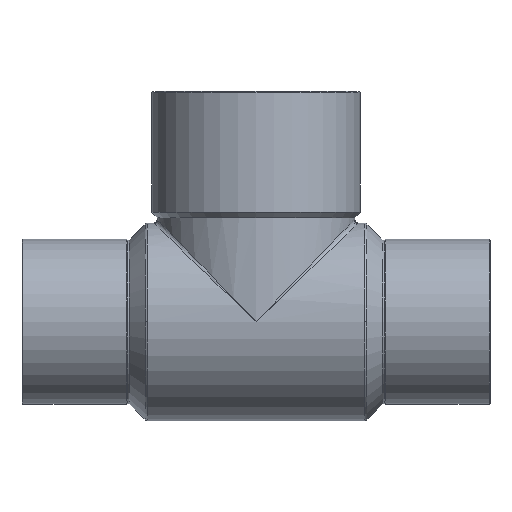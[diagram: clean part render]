
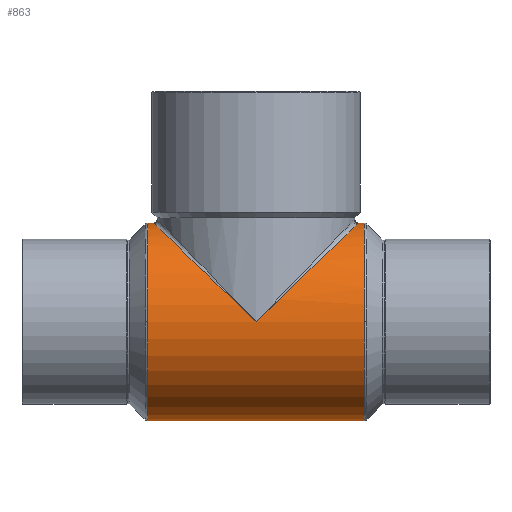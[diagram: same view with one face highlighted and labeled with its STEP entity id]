
A CAD part, top view. The second image highlights one B-rep face of the part: STEP entity #863.
In plain terms, the highlighted cylindrical face has radius 27 mm (diameter 54 mm), a partial arc.
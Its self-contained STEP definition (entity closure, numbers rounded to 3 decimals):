
#500=CARTESIAN_POINT('',(0.0,0.0,27.0));
#501=VERTEX_POINT('',#500);
#721=CARTESIAN_POINT('',(-29.639,0.,27.0));
#722=VERTEX_POINT('',#721);
#730=CARTESIAN_POINT('',(-29.639,27.0,0.));
#731=VERTEX_POINT('',#730);
#732=CARTESIAN_POINT('',(-29.639,0.0,0.0));
#733=DIRECTION('',(-1.0,0.0,0.0));
#734=DIRECTION('',(0.0,-1.0,0.0));
#735=AXIS2_PLACEMENT_3D('',#732,#733,#734);
#736=CIRCLE('',#735,27.0);
#737=EDGE_CURVE('',#722,#731,#736,.T.);
#790=CARTESIAN_POINT('',(0.,0.0,0.0));
#791=DIRECTION('',(1.0,0.0,0.0));
#792=DIRECTION('',(0.0,1.0,0.0));
#793=AXIS2_PLACEMENT_3D('',#790,#791,#792);
#794=CYLINDRICAL_SURFACE('',#793,27.0);
#795=CARTESIAN_POINT('',(-28.,27.,0.));
#796=VERTEX_POINT('',#795);
#797=CARTESIAN_POINT('',(-29.639,27.0,0.));
#798=DIRECTION('',(1.0,0.0,0.0));
#799=VECTOR('',#798,1.639);
#800=LINE('',#797,#799);
#801=EDGE_CURVE('',#731,#796,#800,.T.);
#802=ORIENTED_EDGE('',*,*,#801,.F.);
#803=ORIENTED_EDGE('',*,*,#737,.F.);
#804=CARTESIAN_POINT('',(-29.639,-27.0,0.));
#805=VERTEX_POINT('',#804);
#806=CARTESIAN_POINT('',(-29.639,0.0,0.0));
#807=DIRECTION('',(-1.0,0.0,0.0));
#808=DIRECTION('',(0.0,-1.0,0.0));
#809=AXIS2_PLACEMENT_3D('',#806,#807,#808);
#810=CIRCLE('',#809,27.0);
#811=EDGE_CURVE('',#805,#722,#810,.T.);
#812=ORIENTED_EDGE('',*,*,#811,.F.);
#813=CARTESIAN_POINT('',(29.639,-27.0,0.));
#814=VERTEX_POINT('',#813);
#815=CARTESIAN_POINT('',(29.639,-27.0,0.));
#816=DIRECTION('',(-1.0,0.0,0.0));
#817=VECTOR('',#816,59.279);
#818=LINE('',#815,#817);
#819=EDGE_CURVE('',#814,#805,#818,.T.);
#820=ORIENTED_EDGE('',*,*,#819,.F.);
#821=CARTESIAN_POINT('',(29.639,0.,27.0));
#822=VERTEX_POINT('',#821);
#823=CARTESIAN_POINT('',(29.639,0.0,0.0));
#824=DIRECTION('',(1.0,0.0,0.0));
#825=DIRECTION('',(0.0,-1.0,0.0));
#826=AXIS2_PLACEMENT_3D('',#823,#824,#825);
#827=CIRCLE('',#826,27.0);
#828=EDGE_CURVE('',#822,#814,#827,.T.);
#829=ORIENTED_EDGE('',*,*,#828,.F.);
#830=CARTESIAN_POINT('',(29.639,27.0,0.0));
#831=VERTEX_POINT('',#830);
#832=CARTESIAN_POINT('',(29.639,0.0,0.0));
#833=DIRECTION('',(1.0,0.0,0.0));
#834=DIRECTION('',(0.0,-1.0,0.0));
#835=AXIS2_PLACEMENT_3D('',#832,#833,#834);
#836=CIRCLE('',#835,27.0);
#837=EDGE_CURVE('',#831,#822,#836,.T.);
#838=ORIENTED_EDGE('',*,*,#837,.F.);
#839=CARTESIAN_POINT('',(28.,27.,0.));
#840=VERTEX_POINT('',#839);
#841=CARTESIAN_POINT('',(28.,27.,0.));
#842=DIRECTION('',(1.0,0.0,0.0));
#843=VECTOR('',#842,1.639);
#844=LINE('',#841,#843);
#845=EDGE_CURVE('',#840,#831,#844,.T.);
#846=ORIENTED_EDGE('',*,*,#845,.F.);
#847=CARTESIAN_POINT('',(0.0,0.0,0.0));
#848=DIRECTION('',(-0.694,0.72,0.0));
#849=DIRECTION('',(0.72,0.694,0.0));
#850=AXIS2_PLACEMENT_3D('',#847,#848,#849);
#851=ELLIPSE('',#850,38.897,27.);
#852=EDGE_CURVE('',#501,#840,#851,.T.);
#853=ORIENTED_EDGE('',*,*,#852,.F.);
#854=CARTESIAN_POINT('',(0.0,0.0,0.0));
#855=DIRECTION('',(0.694,0.72,0.0));
#856=DIRECTION('',(-0.72,0.694,0.0));
#857=AXIS2_PLACEMENT_3D('',#854,#855,#856);
#858=ELLIPSE('',#857,38.897,27.);
#859=EDGE_CURVE('',#796,#501,#858,.T.);
#860=ORIENTED_EDGE('',*,*,#859,.F.);
#861=EDGE_LOOP('',(#802,#803,#812,#820,#829,#838,#846,#853,#860));
#862=FACE_OUTER_BOUND('',#861,.T.);
#863=ADVANCED_FACE('',(#862),#794,.T.);
